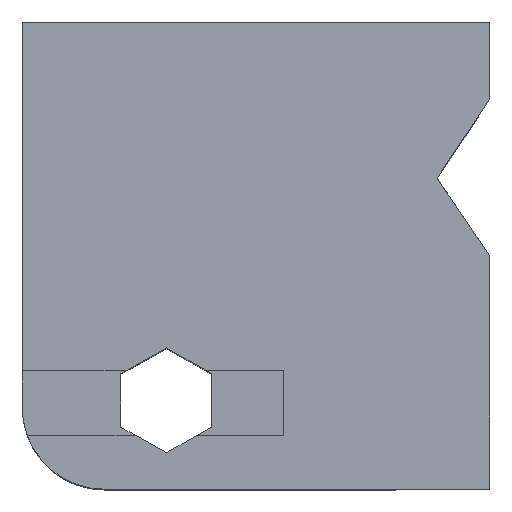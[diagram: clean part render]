
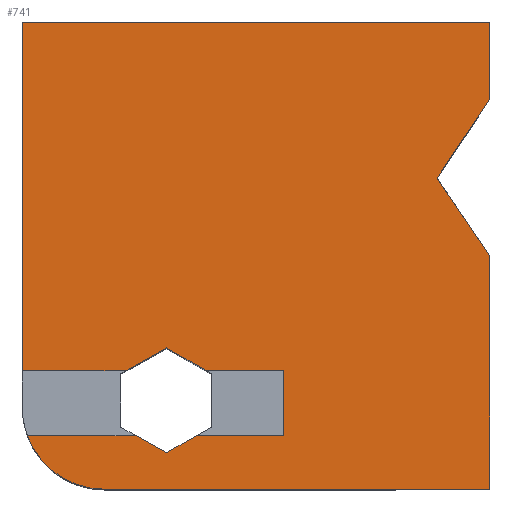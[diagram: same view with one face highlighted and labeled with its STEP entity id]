
A CAD part, top view. The second image highlights one B-rep face of the part: STEP entity #741.
In plain terms, the highlighted planar face has unit normal (0, 0, 1).
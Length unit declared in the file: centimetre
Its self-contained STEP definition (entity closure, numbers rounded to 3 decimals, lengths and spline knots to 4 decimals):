
#2 = CARTESIAN_POINT ( 'NONE',  ( 404.9149, 132.8599, 1000. ) ) ;
#18 = VECTOR ( 'NONE', #227, 100. ) ;
#19 = VERTEX_POINT ( 'NONE', #1071 ) ;
#33 = FACE_OUTER_BOUND ( 'NONE', #321, .T. ) ;
#38 = DIRECTION ( 'NONE',  ( -1., 0., 0. ) ) ;
#39 = ORIENTED_EDGE ( 'NONE', *, *, #890, .T. ) ;
#59 = ORIENTED_EDGE ( 'NONE', *, *, #1287, .T. ) ;
#66 = CARTESIAN_POINT ( 'NONE',  ( 372.7426, 114.571, 1000. ) ) ;
#68 = VECTOR ( 'NONE', #1144, 100. ) ;
#85 = CARTESIAN_POINT ( 'NONE',  ( 308.5795, 78.0962, 1000. ) ) ;
#88 = LINE ( 'NONE', #791, #68 ) ;
#90 = DIRECTION ( 'NONE',  ( 0., -1., 0. ) ) ;
#103 = DIRECTION ( 'NONE',  ( -0.873, 0.489, 0. ) ) ;
#108 = LINE ( 'NONE', #1495, #600 ) ;
#111 = VERTEX_POINT ( 'NONE', #430 ) ;
#113 = CARTESIAN_POINT ( 'NONE',  ( 308.5795, 302.2842, 1000. ) ) ;
#118 = CARTESIAN_POINT ( 'NONE',  ( 0., 1000., 1000. ) ) ;
#119 = CIRCLE ( 'NONE', #1500, 174.9207 ) ;
#122 = EDGE_CURVE ( 'NONE', #222, #688, #1127, .T. ) ;
#126 = EDGE_CURVE ( 'NONE', #489, #1403, #1115, .T. ) ;
#131 = DIRECTION ( 'NONE',  ( -0.561, 0.828, 0. ) ) ;
#134 = ORIENTED_EDGE ( 'NONE', *, *, #651, .T. ) ;
#139 = VECTOR ( 'NONE', #103, 100. ) ;
#155 = VECTOR ( 'NONE', #580, 100. ) ;
#173 = CARTESIAN_POINT ( 'NONE',  ( 10.7404, 114.571, 1000. ) ) ;
#177 = VERTEX_POINT ( 'NONE', #826 ) ;
#178 = ORIENTED_EDGE ( 'NONE', *, *, #361, .T. ) ;
#222 = VERTEX_POINT ( 'NONE', #592 ) ;
#227 = DIRECTION ( 'NONE',  ( -1., 0., 0. ) ) ;
#239 = ORIENTED_EDGE ( 'NONE', *, *, #497, .T. ) ;
#253 = EDGE_CURVE ( 'NONE', #953, #672, #709, .T. ) ;
#254 = EDGE_CURVE ( 'NONE', #1379, #177, #397, .T. ) ;
#264 = VECTOR ( 'NONE', #276, 100. ) ;
#272 = LINE ( 'NONE', #1189, #1367 ) ;
#276 = DIRECTION ( 'NONE',  ( -1., 0., 0. ) ) ;
#282 = VECTOR ( 'NONE', #573, 100. ) ;
#287 = DIRECTION ( 'NONE',  ( -1., 0., 0. ) ) ;
#311 = ORIENTED_EDGE ( 'NONE', *, *, #973, .F. ) ;
#318 = ORIENTED_EDGE ( 'NONE', *, *, #370, .T. ) ;
#321 = EDGE_LOOP ( 'NONE', ( #318, #451, #1162, #178, #1151, #359, #480, #1064, #311, #1190, #239, #1027, #59, #134, #39, #439, #823 ) ) ;
#349 = VERTEX_POINT ( 'NONE', #66 ) ;
#359 = ORIENTED_EDGE ( 'NONE', *, *, #374, .T. ) ;
#361 = EDGE_CURVE ( 'NONE', #672, #969, #753, .T. ) ;
#367 = CARTESIAN_POINT ( 'NONE',  ( 559.2936, 253.8518, 1000. ) ) ;
#370 = EDGE_CURVE ( 'NONE', #808, #401, #1090, .T. ) ;
#372 = DIRECTION ( 'NONE',  ( 0., 0., 1. ) ) ;
#374 = EDGE_CURVE ( 'NONE', #111, #1299, #1457, .T. ) ;
#397 = LINE ( 'NONE', #367, #18 ) ;
#401 = VERTEX_POINT ( 'NONE', #778 ) ;
#402 = VECTOR ( 'NONE', #804, 100. ) ;
#406 = LINE ( 'NONE', #1439, #1479 ) ;
#410 = EDGE_CURVE ( 'NONE', #1403, #808, #413, .T. ) ;
#413 = LINE ( 'NONE', #565, #1060 ) ;
#430 = CARTESIAN_POINT ( 'NONE',  ( 222.0712, 253.8518, 1000. ) ) ;
#432 = CARTESIAN_POINT ( 'NONE',  ( 0., 253.8518, 1000. ) ) ;
#435 = LINE ( 'NONE', #2, #282 ) ;
#439 = ORIENTED_EDGE ( 'NONE', *, *, #126, .T. ) ;
#451 = ORIENTED_EDGE ( 'NONE', *, *, #594, .T. ) ;
#480 = ORIENTED_EDGE ( 'NONE', *, *, #928, .T. ) ;
#489 = VERTEX_POINT ( 'NONE', #1273 ) ;
#490 = DIRECTION ( 'NONE',  ( 1., 0., 0. ) ) ;
#497 = EDGE_CURVE ( 'NONE', #349, #222, #435, .T. ) ;
#523 = AXIS2_PLACEMENT_3D ( 'NONE', #1425, #1409, #839 ) ;
#548 = CARTESIAN_POINT ( 'NONE',  ( 887.5376, 665.9734, 1000. ) ) ;
#555 = CARTESIAN_POINT ( 'NONE',  ( 1000., 1000., 1000. ) ) ;
#565 = CARTESIAN_POINT ( 'NONE',  ( 1000., 500., 1000. ) ) ;
#573 = DIRECTION ( 'NONE',  ( -0.869, -0.494, 0. ) ) ;
#580 = DIRECTION ( 'NONE',  ( -1., 0., 0. ) ) ;
#592 = CARTESIAN_POINT ( 'NONE',  ( 308.5795, 78.0962, 1000. ) ) ;
#594 = EDGE_CURVE ( 'NONE', #401, #953, #108, .T. ) ;
#597 = PLANE ( 'NONE',  #523 ) ;
#600 = VECTOR ( 'NONE', #1047, 100. ) ;
#631 = CARTESIAN_POINT ( 'NONE',  ( 559.2936, 114.571, 1000. ) ) ;
#651 = EDGE_CURVE ( 'NONE', #1255, #828, #119, .T. ) ;
#663 = CARTESIAN_POINT ( 'NONE',  ( 0., 1000., 1000. ) ) ;
#672 = VERTEX_POINT ( 'NONE', #1191 ) ;
#688 = VERTEX_POINT ( 'NONE', #843 ) ;
#709 = LINE ( 'NONE', #118, #155 ) ;
#741 = ADVANCED_FACE ( 'NONE', ( #33 ), #597, .T. ) ;
#745 = CARTESIAN_POINT ( 'NONE',  ( 174.9207, 0., 1000. ) ) ;
#753 = LINE ( 'NONE', #663, #1415 ) ;
#778 = CARTESIAN_POINT ( 'NONE',  ( 1000., 834.6652, 1000. ) ) ;
#791 = CARTESIAN_POINT ( 'NONE',  ( 559.2936, 114.571, 1000. ) ) ;
#804 = DIRECTION ( 'NONE',  ( 0., 1., 0. ) ) ;
#808 = VERTEX_POINT ( 'NONE', #1204 ) ;
#823 = ORIENTED_EDGE ( 'NONE', *, *, #410, .T. ) ;
#826 = CARTESIAN_POINT ( 'NONE',  ( 393.7774, 253.8518, 1000. ) ) ;
#828 = VERTEX_POINT ( 'NONE', #745 ) ;
#839 = DIRECTION ( 'NONE',  ( 1., 0., 0. ) ) ;
#843 = CARTESIAN_POINT ( 'NONE',  ( 243.4295, 114.571, 1000. ) ) ;
#881 = CARTESIAN_POINT ( 'NONE',  ( 210.7624, 247.5205, 1000. ) ) ;
#887 = DIRECTION ( 'NONE',  ( 0.869, -0.494, 0. ) ) ;
#890 = EDGE_CURVE ( 'NONE', #828, #489, #1332, .T. ) ;
#928 = EDGE_CURVE ( 'NONE', #1299, #177, #995, .T. ) ;
#953 = VERTEX_POINT ( 'NONE', #555 ) ;
#969 = VERTEX_POINT ( 'NONE', #432 ) ;
#973 = EDGE_CURVE ( 'NONE', #19, #1379, #88, .T. ) ;
#989 = LINE ( 'NONE', #631, #264 ) ;
#995 = LINE ( 'NONE', #1001, #1296 ) ;
#997 = DIRECTION ( 'NONE',  ( 0.555, 0.832, 0. ) ) ;
#1001 = CARTESIAN_POINT ( 'NONE',  ( 308.5795, 302.2842, 1000. ) ) ;
#1013 = DIRECTION ( 'NONE',  ( 0.873, 0.489, 0. ) ) ;
#1019 = CARTESIAN_POINT ( 'NONE',  ( 1000., 500., 1000. ) ) ;
#1027 = ORIENTED_EDGE ( 'NONE', *, *, #122, .T. ) ;
#1047 = DIRECTION ( 'NONE',  ( 0., 1., 0. ) ) ;
#1060 = VECTOR ( 'NONE', #131, 100. ) ;
#1064 = ORIENTED_EDGE ( 'NONE', *, *, #254, .F. ) ;
#1071 = CARTESIAN_POINT ( 'NONE',  ( 559.2936, 114.571, 1000. ) ) ;
#1090 = LINE ( 'NONE', #548, #1318 ) ;
#1115 = LINE ( 'NONE', #1344, #402 ) ;
#1127 = LINE ( 'NONE', #85, #139 ) ;
#1144 = DIRECTION ( 'NONE',  ( 0., 1., 0. ) ) ;
#1151 = ORIENTED_EDGE ( 'NONE', *, *, #1286, .F. ) ;
#1162 = ORIENTED_EDGE ( 'NONE', *, *, #253, .T. ) ;
#1189 = CARTESIAN_POINT ( 'NONE',  ( 559.2936, 114.571, 1000. ) ) ;
#1190 = ORIENTED_EDGE ( 'NONE', *, *, #1444, .T. ) ;
#1191 = CARTESIAN_POINT ( 'NONE',  ( 0., 1000., 1000. ) ) ;
#1204 = CARTESIAN_POINT ( 'NONE',  ( 887.5376, 665.9734, 1000. ) ) ;
#1214 = VECTOR ( 'NONE', #1013, 100. ) ;
#1255 = VERTEX_POINT ( 'NONE', #173 ) ;
#1273 = CARTESIAN_POINT ( 'NONE',  ( 1000., 0., 1000. ) ) ;
#1286 = EDGE_CURVE ( 'NONE', #111, #969, #406, .T. ) ;
#1287 = EDGE_CURVE ( 'NONE', #688, #1255, #989, .T. ) ;
#1296 = VECTOR ( 'NONE', #887, 100. ) ;
#1299 = VERTEX_POINT ( 'NONE', #113 ) ;
#1318 = VECTOR ( 'NONE', #997, 100. ) ;
#1332 = LINE ( 'NONE', #1454, #1373 ) ;
#1344 = CARTESIAN_POINT ( 'NONE',  ( 1000., 1000., 1000. ) ) ;
#1367 = VECTOR ( 'NONE', #38, 100. ) ;
#1373 = VECTOR ( 'NONE', #1447, 100. ) ;
#1379 = VERTEX_POINT ( 'NONE', #1386 ) ;
#1386 = CARTESIAN_POINT ( 'NONE',  ( 559.2936, 253.8518, 1000. ) ) ;
#1403 = VERTEX_POINT ( 'NONE', #1019 ) ;
#1409 = DIRECTION ( 'NONE',  ( 0., 0., 1. ) ) ;
#1413 = CARTESIAN_POINT ( 'NONE',  ( 174.9207, 174.9207, 1000. ) ) ;
#1415 = VECTOR ( 'NONE', #90, 100. ) ;
#1425 = CARTESIAN_POINT ( 'NONE',  ( 0., 0., 1000. ) ) ;
#1439 = CARTESIAN_POINT ( 'NONE',  ( 559.2936, 253.8518, 1000. ) ) ;
#1444 = EDGE_CURVE ( 'NONE', #19, #349, #272, .T. ) ;
#1447 = DIRECTION ( 'NONE',  ( 1., 0., 0. ) ) ;
#1454 = CARTESIAN_POINT ( 'NONE',  ( 0., 0., 1000. ) ) ;
#1457 = LINE ( 'NONE', #881, #1214 ) ;
#1479 = VECTOR ( 'NONE', #287, 100. ) ;
#1495 = CARTESIAN_POINT ( 'NONE',  ( 1000., 1000., 1000. ) ) ;
#1500 = AXIS2_PLACEMENT_3D ( 'NONE', #1413, #372, #490 ) ;
